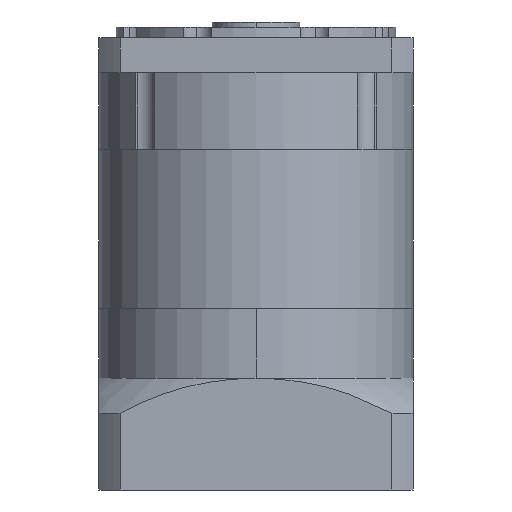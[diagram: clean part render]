
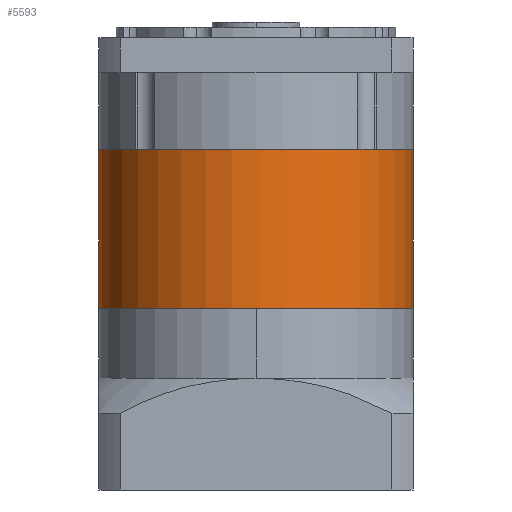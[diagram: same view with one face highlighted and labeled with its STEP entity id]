
A CAD part, left-side view. The second image highlights one B-rep face of the part: STEP entity #5593.
In plain terms, the highlighted cylindrical face has radius 45 mm (diameter 90 mm), a partial arc.
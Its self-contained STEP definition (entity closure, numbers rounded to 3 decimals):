
#530 = CARTESIAN_POINT ( 'NONE',  ( 0., 45., 22.75 ) ) ;
#1718 = DIRECTION ( 'NONE',  ( 0., 1., 0. ) ) ;
#4343 = DIRECTION ( 'NONE',  ( 0., 0., -1. ) ) ;
#5593 = ADVANCED_FACE ( 'NONE', ( #41451 ), #22647, .T. ) ;
#5671 = VERTEX_POINT ( 'NONE', #18189 ) ;
#5936 = ORIENTED_EDGE ( 'NONE', *, *, #31404, .T. ) ;
#6034 = CARTESIAN_POINT ( 'NONE',  ( 0., 45., -22.75 ) ) ;
#7975 = VERTEX_POINT ( 'NONE', #6034 ) ;
#9071 = EDGE_LOOP ( 'NONE', ( #27021, #24826, #5936, #16814 ) ) ;
#9711 = DIRECTION ( 'NONE',  ( 0., 0., -1. ) ) ;
#11480 = LINE ( 'NONE', #12799, #31311 ) ;
#12799 = CARTESIAN_POINT ( 'NONE',  ( 0., -45., 22.75 ) ) ;
#13981 = AXIS2_PLACEMENT_3D ( 'NONE', #43943, #22881, #1718 ) ;
#16814 = ORIENTED_EDGE ( 'NONE', *, *, #31681, .F. ) ;
#18189 = CARTESIAN_POINT ( 'NONE',  ( 0., -45., -22.75 ) ) ;
#18692 = CARTESIAN_POINT ( 'NONE',  ( 0., 0., 22.75 ) ) ;
#18783 = DIRECTION ( 'NONE',  ( 0., 1., 0. ) ) ;
#19021 = CIRCLE ( 'NONE', #13981, 45. ) ;
#19207 = AXIS2_PLACEMENT_3D ( 'NONE', #30798, #9711, #34362 ) ;
#19527 = DIRECTION ( 'NONE',  ( 0., 0., -1. ) ) ;
#22647 = CYLINDRICAL_SURFACE ( 'NONE', #27061, 45. ) ;
#22881 = DIRECTION ( 'NONE',  ( 0., 0., 1. ) ) ;
#23960 = VECTOR ( 'NONE', #4343, 1000. ) ;
#24826 = ORIENTED_EDGE ( 'NONE', *, *, #39159, .T. ) ;
#27021 = ORIENTED_EDGE ( 'NONE', *, *, #29183, .T. ) ;
#27061 = AXIS2_PLACEMENT_3D ( 'NONE', #18692, #19527, #18783 ) ;
#29040 = CARTESIAN_POINT ( 'NONE',  ( 0., 45., 22.75 ) ) ;
#29183 = EDGE_CURVE ( 'NONE', #32619, #37208, #36835, .T. ) ;
#30798 = CARTESIAN_POINT ( 'NONE',  ( 0., 0., 22.75 ) ) ;
#31311 = VECTOR ( 'NONE', #37477, 1000. ) ;
#31404 = EDGE_CURVE ( 'NONE', #5671, #7975, #19021, .T. ) ;
#31681 = EDGE_CURVE ( 'NONE', #32619, #7975, #41653, .T. ) ;
#32619 = VERTEX_POINT ( 'NONE', #530 ) ;
#32999 = CARTESIAN_POINT ( 'NONE',  ( 0., -45., 22.75 ) ) ;
#34362 = DIRECTION ( 'NONE',  ( 0., 1., 0. ) ) ;
#36835 = CIRCLE ( 'NONE', #19207, 45. ) ;
#37208 = VERTEX_POINT ( 'NONE', #32999 ) ;
#37477 = DIRECTION ( 'NONE',  ( 0., 0., -1. ) ) ;
#39159 = EDGE_CURVE ( 'NONE', #37208, #5671, #11480, .T. ) ;
#41451 = FACE_OUTER_BOUND ( 'NONE', #9071, .T. ) ;
#41653 = LINE ( 'NONE', #29040, #23960 ) ;
#43943 = CARTESIAN_POINT ( 'NONE',  ( 0., 0., -22.75 ) ) ;
